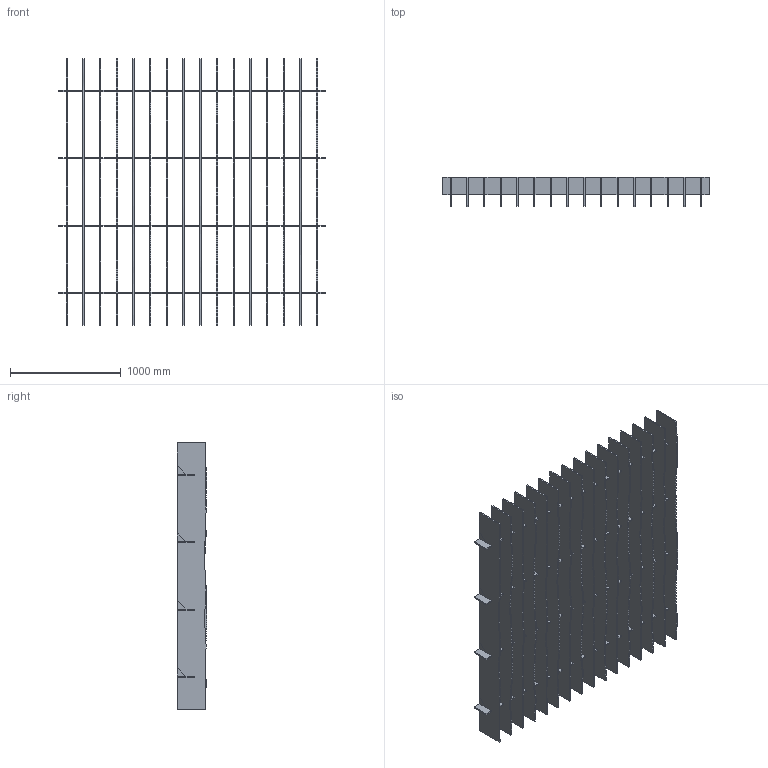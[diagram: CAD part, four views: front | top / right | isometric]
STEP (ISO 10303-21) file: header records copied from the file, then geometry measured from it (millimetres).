
FILE_DESCRIPTION(/* description */ (''),/* implementation_level */ '2;1');
FILE_NAME(/* name */ 'Y:\Design and Engineering\MaterialLogiq\CAD ASSETS\MASTER\BAFFLE\WEB ASSETS\PET BAFFLE_16FIN_8x8_10_JITTER.stp',/* time_stamp */ '2023-11-16T11:57:32-06:00',/* author */ ('Grant Baker'),/* organization */ (''),/* preprocessor_version */ 'ST-DEVELOPER v19',/* originating_system */ 'Autodesk Inventor 2023',/* authorisation */ '');
FILE_SCHEMA (('AUTOMOTIVE_DESIGN { 1 0 10303 214 3 1 1 }'));
Length unit declared in the file: inch
Products named in the file (6): PET BAFFLE_PARAMETRIC_11.02.2023; PET BAFFLE_BEAM; PET BAFFLE_FIN_96in_JITTER-1; PET BAFFLE_FIN_96in_JITTER-3; PET BAFFLE_FIN_96in_JITTER-2; PET BAFFLE_FIN_96in_JITTER-4
Assembly tree (20 placements, depth 2):
  PET BAFFLE_PARAMETRIC_11.02.2023
    PET BAFFLE_BEAM  x4
    PET BAFFLE_FIN_96in_JITTER-1  x4
    PET BAFFLE_FIN_96in_JITTER-3  x4
    PET BAFFLE_FIN_96in_JITTER-2  x4
    PET BAFFLE_FIN_96in_JITTER-4  x4
Bounding box: 2413 x 267.41 x 2413 mm (x, y, z)
Volume: 136720435.9 mm3; surface area: 24064555.1 mm2
Topology: 84 solids, 84 shells, 2752 faces, 7752 edges, 5168 vertices
Faces by surface type: plane 2696, bspline 56
Entity records: 24457 total; most frequent: CARTESIAN_POINT 6430, ORIENTED_EDGE 3876, DIRECTION 3310, EDGE_CURVE 1938, LINE 1910, VECTOR 1910, VERTEX_POINT 1292, AXIS2_PLACEMENT_3D 700
